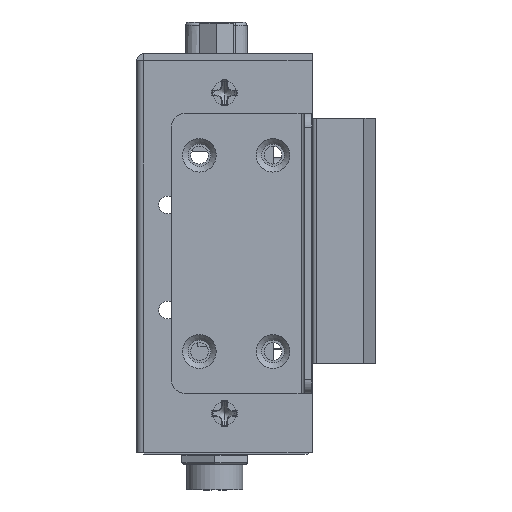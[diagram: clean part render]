
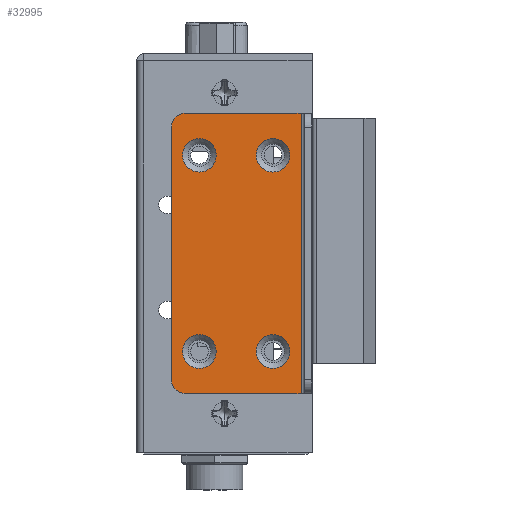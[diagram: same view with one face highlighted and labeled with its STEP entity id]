
A CAD part, left-side view. The second image highlights one B-rep face of the part: STEP entity #32995.
In plain terms, the highlighted planar face has unit normal (-1, 0, 0).
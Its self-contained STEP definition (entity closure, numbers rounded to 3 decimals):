
#664=FACE_BOUND('',#4453,.T.);
#665=FACE_BOUND('',#4454,.T.);
#666=FACE_BOUND('',#4455,.T.);
#667=FACE_BOUND('',#4456,.T.);
#981=PLANE('',#34946);
#2652=FACE_OUTER_BOUND('',#4452,.T.);
#4452=EDGE_LOOP('',(#23313,#23314,#23315,#23316,#23317,#23318));
#4453=EDGE_LOOP('',(#23319));
#4454=EDGE_LOOP('',(#23320));
#4455=EDGE_LOOP('',(#23321));
#4456=EDGE_LOOP('',(#23322));
#6555=LINE('',#47510,#10157);
#6561=LINE('',#47524,#10163);
#6562=LINE('',#47526,#10164);
#6563=LINE('',#47530,#10165);
#10157=VECTOR('',#37994,1000.);
#10163=VECTOR('',#38004,1000.);
#10164=VECTOR('',#38005,1000.);
#10165=VECTOR('',#38008,1000.);
#13713=CIRCLE('',#34912,2.4);
#13715=CIRCLE('',#34915,2.4);
#13717=CIRCLE('',#34918,2.4);
#13719=CIRCLE('',#34921,2.4);
#13734=CIRCLE('',#34947,2.);
#13735=CIRCLE('',#34948,2.);
#14670=VERTEX_POINT('',#47439);
#14672=VERTEX_POINT('',#47445);
#14674=VERTEX_POINT('',#47451);
#14676=VERTEX_POINT('',#47457);
#14692=VERTEX_POINT('',#47507);
#14693=VERTEX_POINT('',#47509);
#14699=VERTEX_POINT('',#47523);
#14700=VERTEX_POINT('',#47525);
#14701=VERTEX_POINT('',#47527);
#14702=VERTEX_POINT('',#47529);
#18022=EDGE_CURVE('',#14670,#14670,#13713,.T.);
#18025=EDGE_CURVE('',#14672,#14672,#13715,.T.);
#18028=EDGE_CURVE('',#14674,#14674,#13717,.T.);
#18031=EDGE_CURVE('',#14676,#14676,#13719,.T.);
#18055=EDGE_CURVE('',#14692,#14693,#6555,.T.);
#18062=EDGE_CURVE('',#14699,#14692,#6561,.T.);
#18063=EDGE_CURVE('',#14700,#14699,#6562,.T.);
#18064=EDGE_CURVE('',#14701,#14700,#13734,.T.);
#18065=EDGE_CURVE('',#14702,#14701,#6563,.T.);
#18066=EDGE_CURVE('',#14693,#14702,#13735,.T.);
#23313=ORIENTED_EDGE('',*,*,#18062,.F.);
#23314=ORIENTED_EDGE('',*,*,#18063,.F.);
#23315=ORIENTED_EDGE('',*,*,#18064,.F.);
#23316=ORIENTED_EDGE('',*,*,#18065,.F.);
#23317=ORIENTED_EDGE('',*,*,#18066,.F.);
#23318=ORIENTED_EDGE('',*,*,#18055,.F.);
#23319=ORIENTED_EDGE('',*,*,#18022,.F.);
#23320=ORIENTED_EDGE('',*,*,#18025,.F.);
#23321=ORIENTED_EDGE('',*,*,#18028,.F.);
#23322=ORIENTED_EDGE('',*,*,#18031,.F.);
#32995=ADVANCED_FACE('',(#2652,#664,#665,#666,#667),#981,.F.);
#34912=AXIS2_PLACEMENT_3D('',#47441,#37915,#37916);
#34915=AXIS2_PLACEMENT_3D('',#47447,#37922,#37923);
#34918=AXIS2_PLACEMENT_3D('',#47453,#37929,#37930);
#34921=AXIS2_PLACEMENT_3D('',#47459,#37936,#37937);
#34946=AXIS2_PLACEMENT_3D('',#47522,#38002,#38003);
#34947=AXIS2_PLACEMENT_3D('',#47528,#38006,#38007);
#34948=AXIS2_PLACEMENT_3D('',#47531,#38009,#38010);
#37915=DIRECTION('center_axis',(-1.,0.,0.));
#37916=DIRECTION('ref_axis',(0.,0.,-1.));
#37922=DIRECTION('center_axis',(-1.,0.,0.));
#37923=DIRECTION('ref_axis',(0.,0.,-1.));
#37929=DIRECTION('center_axis',(-1.,0.,0.));
#37930=DIRECTION('ref_axis',(0.,0.,-1.));
#37936=DIRECTION('center_axis',(-1.,0.,0.));
#37937=DIRECTION('ref_axis',(0.,0.,-1.));
#37994=DIRECTION('',(0.,-1.,0.));
#38002=DIRECTION('center_axis',(1.,0.,0.));
#38003=DIRECTION('ref_axis',(0.,-1.,0.));
#38004=DIRECTION('',(0.,0.,1.));
#38005=DIRECTION('',(0.,1.,0.));
#38006=DIRECTION('center_axis',(1.,0.,0.));
#38007=DIRECTION('ref_axis',(0.,0.,1.));
#38008=DIRECTION('',(0.,0.,-1.));
#38009=DIRECTION('center_axis',(1.,0.,0.));
#38010=DIRECTION('ref_axis',(0.,-1.,0.));
#47439=CARTESIAN_POINT('',(-56.161,0.,-12.6));
#47441=CARTESIAN_POINT('Origin',(-56.161,0.,-15.));
#47445=CARTESIAN_POINT('',(-56.161,-10.5,-12.6));
#47447=CARTESIAN_POINT('Origin',(-56.161,-10.5,-15.));
#47451=CARTESIAN_POINT('',(-56.161,-10.5,15.4));
#47453=CARTESIAN_POINT('Origin',(-56.161,-10.5,13.));
#47457=CARTESIAN_POINT('',(-56.161,0.,15.4));
#47459=CARTESIAN_POINT('Origin',(-56.161,0.,13.));
#47507=CARTESIAN_POINT('',(-56.161,4.,19.));
#47509=CARTESIAN_POINT('',(-56.161,-12.5,19.));
#47510=CARTESIAN_POINT('',(-56.161,-3.5,19.));
#47522=CARTESIAN_POINT('Origin',(-56.161,4.37,19.8));
#47523=CARTESIAN_POINT('',(-56.161,4.,-21.));
#47524=CARTESIAN_POINT('',(-56.161,4.,-1.));
#47525=CARTESIAN_POINT('',(-56.161,-12.5,-21.));
#47526=CARTESIAN_POINT('',(-56.161,-5.25,-21.));
#47527=CARTESIAN_POINT('',(-56.161,-14.5,-19.));
#47528=CARTESIAN_POINT('Origin',(-56.161,-12.5,-19.));
#47529=CARTESIAN_POINT('',(-56.161,-14.5,17.));
#47530=CARTESIAN_POINT('',(-56.161,-14.5,-1.));
#47531=CARTESIAN_POINT('Origin',(-56.161,-12.5,17.));
